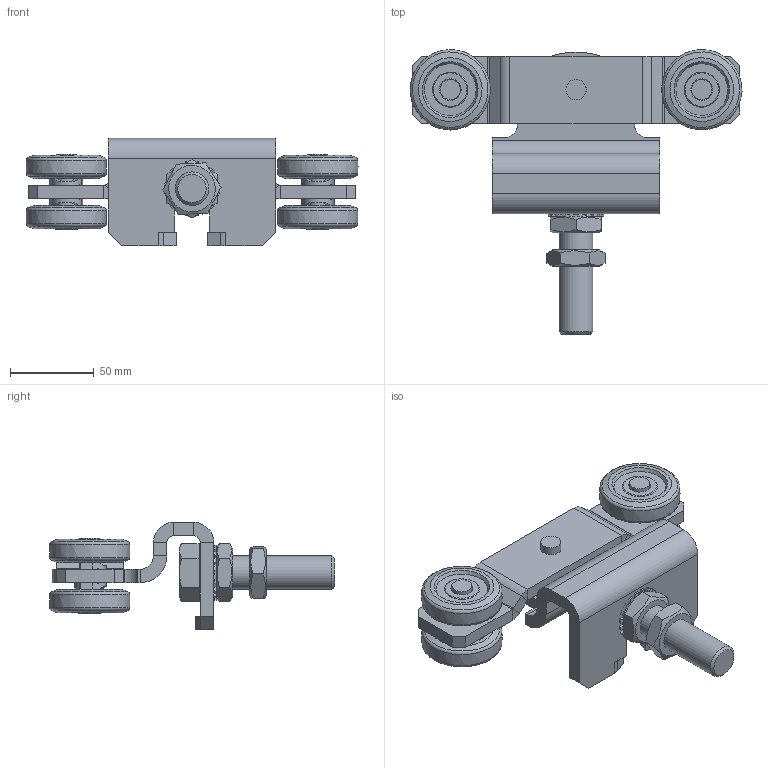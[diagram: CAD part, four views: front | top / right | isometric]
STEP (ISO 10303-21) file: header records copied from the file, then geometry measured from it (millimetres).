
FILE_DESCRIPTION(/* description */ ('Rollenhalter zu Doppelrolle Nr.3'),/* implementation_level */ '2;1');
FILE_NAME(/* name */ 'Q:\sge-ma\Produktmanagement-STB\STB\Workspace\stp\010336430.stp',/* time_stamp */ '2015-03-10T13:29:10+01:00',/* author */ ('avschreier'),/* organization */ (''),/* preprocessor_version */ 'ST-DEVELOPER v15.6',/* originating_system */ 'Autodesk Inventor 2015',/* authorisation */ '');
FILE_SCHEMA (('CONFIG_CONTROL_DESIGN'));
Length unit declared in the file: millimetre
Products named in the file (10): 337000119; 337000226; 000303237; 336290030; 000302240; 000304012; DIN_EN_ISO_4035-M20_en; DIN_6798-A_21_en; DIN_EN_ISO_4017-M20x80_en; 010336430
Bounding box: 197.98 x 170 x 64 mm (x, y, z)
Volume: 311526.3 mm3; surface area: 97092.9 mm2
Topology: 17 solids, 17 shells, 530 faces, 1297 edges, 820 vertices
Faces by surface type: plane 293, cylinder 140, cone 53, bspline 36, torus 8
Full cylindrical faces by diameter (mm): 12 x8, 12.1 x1, 14 x2, 17.294 x2, 18 x1, 18.647 x1, 20 x1, 21 x1, 27.7 x1
Entity records: 11339 total; most frequent: CARTESIAN_POINT 2901, DIRECTION 1796, ORIENTED_EDGE 1648, EDGE_CURVE 824, AXIS2_PLACEMENT_3D 652, VERTEX_POINT 537, LINE 492, VECTOR 492
